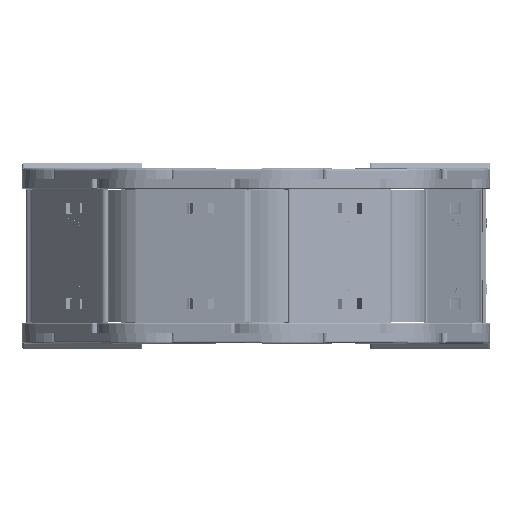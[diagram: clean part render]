
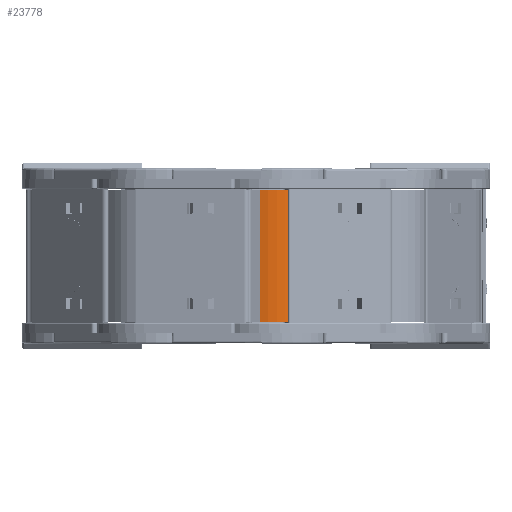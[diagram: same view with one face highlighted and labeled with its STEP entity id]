
A CAD part, left-side view. The second image highlights one B-rep face of the part: STEP entity #23778.
In plain terms, the highlighted cylindrical face has radius 29.2 mm (diameter 58.4 mm), a partial arc.
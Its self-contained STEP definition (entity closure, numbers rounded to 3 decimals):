
#1719 = VECTOR ( 'NONE', #34244, 1000. ) ;
#2170 = EDGE_CURVE ( 'NONE', #25246, #40123, #33264, .T. ) ;
#3005 = DIRECTION ( 'NONE',  ( 1., 0., 0. ) ) ;
#3299 = CARTESIAN_POINT ( 'NONE',  ( 25.609, 2.303, 7.801 ) ) ;
#3947 = ORIENTED_EDGE ( 'NONE', *, *, #28284, .T. ) ;
#5978 = DIRECTION ( 'NONE',  ( 1., 0., 0. ) ) ;
#10373 = CYLINDRICAL_SURFACE ( 'NONE', #50787, 29.2 ) ;
#10939 = LINE ( 'NONE', #16421, #19654 ) ;
#11742 = FACE_OUTER_BOUND ( 'NONE', #25873, .T. ) ;
#11803 = AXIS2_PLACEMENT_3D ( 'NONE', #54453, #28690, #3005 ) ;
#12094 = CIRCLE ( 'NONE', #11803, 29.2 ) ;
#16421 = CARTESIAN_POINT ( 'NONE',  ( 25.609, 2.303, -103.312 ) ) ;
#19654 = VECTOR ( 'NONE', #33674, 1000. ) ;
#20831 = AXIS2_PLACEMENT_3D ( 'NONE', #47580, #21824, #51879 ) ;
#21824 = DIRECTION ( 'NONE',  ( 0., 0., 1. ) ) ;
#22875 = VERTEX_POINT ( 'NONE', #3299 ) ;
#23778 = ADVANCED_FACE ( 'NONE', ( #11742 ), #10373, .T. ) ;
#25246 = VERTEX_POINT ( 'NONE', #39559 ) ;
#25873 = EDGE_LOOP ( 'NONE', ( #35604, #3947, #46640, #48839 ) ) ;
#27386 = CARTESIAN_POINT ( 'NONE',  ( 25.609, 31.503, -103.312 ) ) ;
#28284 = EDGE_CURVE ( 'NONE', #40123, #22875, #12094, .T. ) ;
#28690 = DIRECTION ( 'NONE',  ( 0., 0., -1. ) ) ;
#29909 = CARTESIAN_POINT ( 'NONE',  ( 43.645, 8.539, -103.312 ) ) ;
#32007 = EDGE_CURVE ( 'NONE', #41353, #22875, #10939, .T. ) ;
#33264 = LINE ( 'NONE', #29909, #1719 ) ;
#33674 = DIRECTION ( 'NONE',  ( 0., 0., 1. ) ) ;
#34244 = DIRECTION ( 'NONE',  ( 0., 0., 1. ) ) ;
#35604 = ORIENTED_EDGE ( 'NONE', *, *, #2170, .T. ) ;
#36053 = DIRECTION ( 'NONE',  ( 0., 0., 1. ) ) ;
#36198 = CIRCLE ( 'NONE', #20831, 29.2 ) ;
#39559 = CARTESIAN_POINT ( 'NONE',  ( 43.645, 8.539, -66.3 ) ) ;
#40123 = VERTEX_POINT ( 'NONE', #45812 ) ;
#41283 = CARTESIAN_POINT ( 'NONE',  ( 25.609, 2.303, -66.3 ) ) ;
#41353 = VERTEX_POINT ( 'NONE', #41283 ) ;
#45812 = CARTESIAN_POINT ( 'NONE',  ( 43.645, 8.539, 7.801 ) ) ;
#46640 = ORIENTED_EDGE ( 'NONE', *, *, #32007, .F. ) ;
#47580 = CARTESIAN_POINT ( 'NONE',  ( 25.609, 31.503, -66.3 ) ) ;
#48839 = ORIENTED_EDGE ( 'NONE', *, *, #50088, .T. ) ;
#50088 = EDGE_CURVE ( 'NONE', #41353, #25246, #36198, .T. ) ;
#50787 = AXIS2_PLACEMENT_3D ( 'NONE', #27386, #36053, #5978 ) ;
#51879 = DIRECTION ( 'NONE',  ( 1., 0., 0. ) ) ;
#54453 = CARTESIAN_POINT ( 'NONE',  ( 25.609, 31.503, 7.801 ) ) ;
